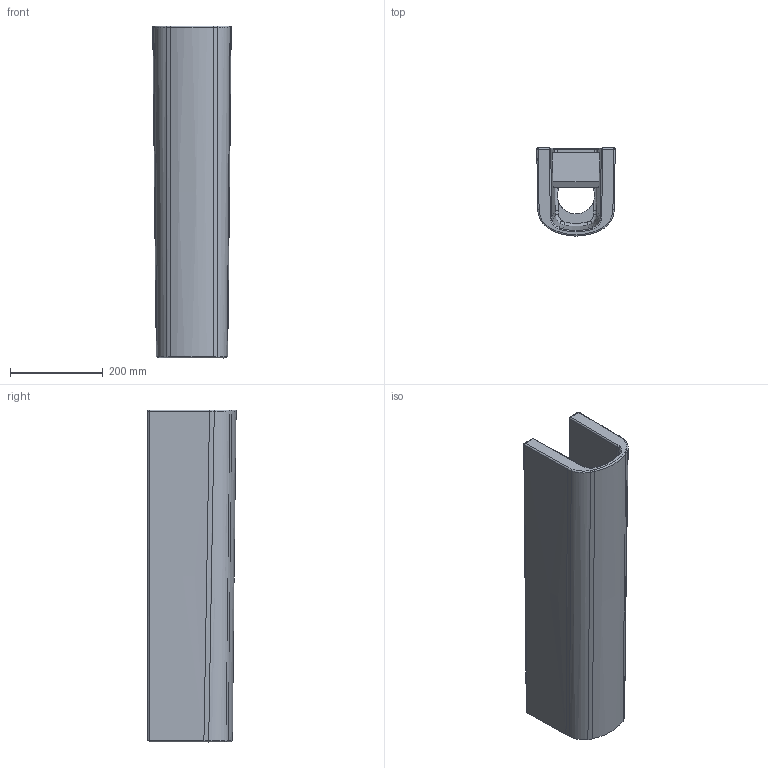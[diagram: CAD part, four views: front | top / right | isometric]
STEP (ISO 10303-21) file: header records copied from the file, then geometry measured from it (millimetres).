
FILE_DESCRIPTION(/* description */ (''),/* implementation_level */ '2;1');
FILE_NAME(/* name */ '085829',/* time_stamp */ '2021-10-13T08:09:24+02:00',/* author */ (''),/* organization */ (''),/* preprocessor_version */ 'ST-DEVELOPER v15',/* originating_system */ '',/* authorisation */ '');
FILE_SCHEMA (('AUTOMOTIVE_DESIGN'));
Length unit declared in the file: millimetre
Products named in the file (1): Document
Bounding box: 168.94 x 189.95 x 715 mm (x, y, z)
Volume: 8641878.1 mm3; surface area: 732536.5 mm2
Topology: 1 solids, 1 shells, 81 faces, 195 edges, 111 vertices
Faces by surface type: bspline 73, plane 8
Entity records: 7382 total; most frequent: CARTESIAN_POINT 6158, ORIENTED_EDGE 382, EDGE_CURVE 191, B_SPLINE_CURVE_WITH_KNOTS 180, VERTEX_POINT 111, EDGE_LOOP 84, ADVANCED_FACE 81, FACE_OUTER_BOUND 81
